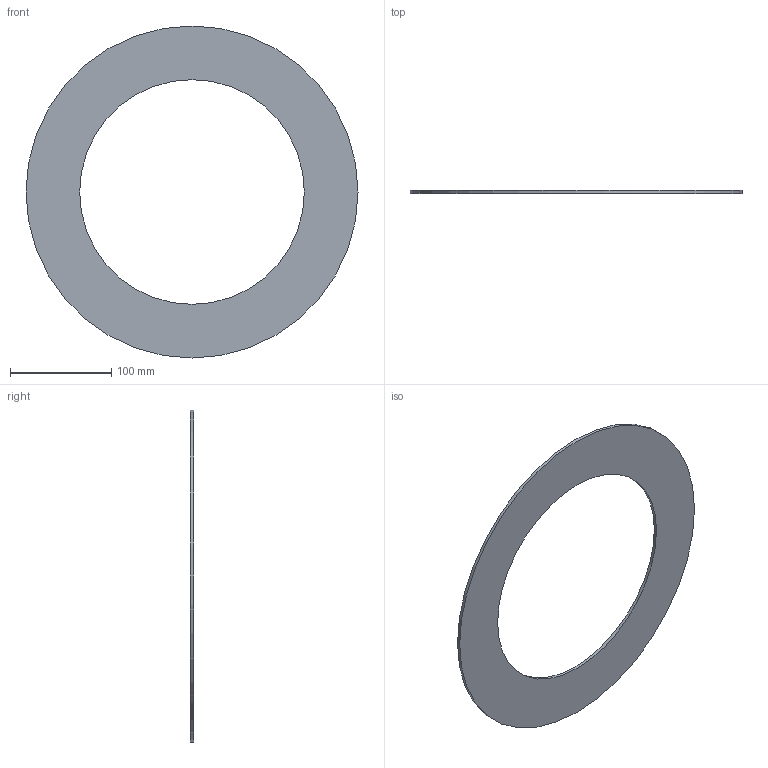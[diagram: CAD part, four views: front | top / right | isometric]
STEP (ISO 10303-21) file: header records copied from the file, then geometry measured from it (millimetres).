
FILE_DESCRIPTION(/* description */ ('Unknown'),/* implementation_level */ '2;1');
FILE_NAME(/* name */ 'GUA.250B',/* time_stamp */ '2021-04-01T12:33:25+02:00',/* author */ ('Unknown'),/* organization */ ('Unknown'),/* preprocessor_version */ 'ST-DEVELOPER v16.7',/* originating_system */ 'Solid Edge',/* authorisation */ 'Unknown');
FILE_SCHEMA (('AUTOMOTIVE_DESIGN {1 0 10303 214 3 1 1}'));
Length unit declared in the file: millimetre
Products named in the file (1): GUA.250B
Bounding box: 328 x 3 x 328 mm (x, y, z)
Volume: 137366.1 mm3; surface area: 96761.1 mm2
Topology: 1 solids, 1 shells, 4 faces, 6 edges, 4 vertices
Faces by surface type: cylinder 2, plane 2
Full cylindrical faces by diameter (mm): 222 x1, 328 x1
Entity records: 118 total; most frequent: DIRECTION 18, CARTESIAN_POINT 13, AXIS2_PLACEMENT_3D 9, ORIENTED_EDGE 8, EDGE_LOOP 8, FACE_BOUND 8, EDGE_CURVE 4, VERTEX_POINT 4
